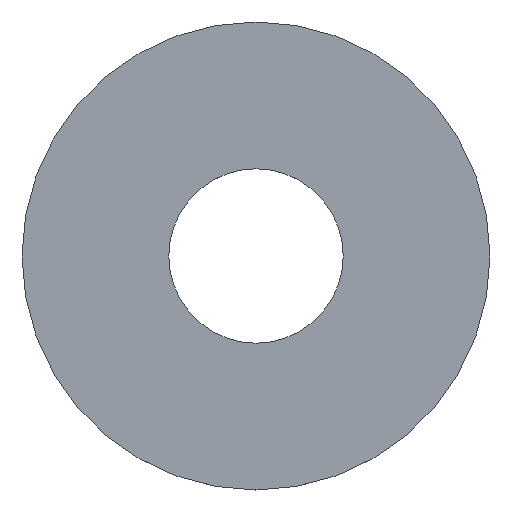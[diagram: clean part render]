
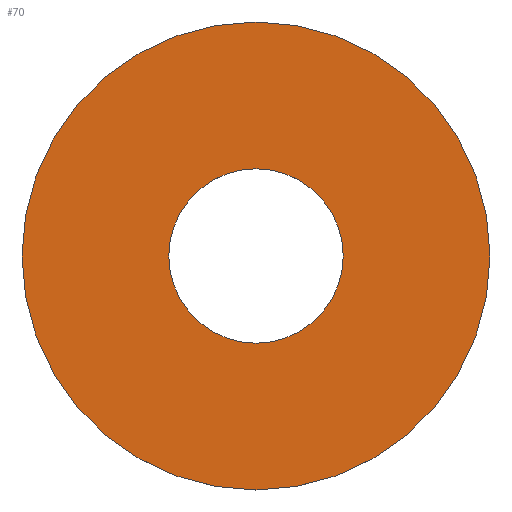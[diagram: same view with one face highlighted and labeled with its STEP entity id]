
A CAD part, top view. The second image highlights one B-rep face of the part: STEP entity #70.
In plain terms, the highlighted planar face has unit normal (0, 0, 1).
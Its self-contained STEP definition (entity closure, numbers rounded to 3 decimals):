
#24 = VERTEX_POINT('',#25);
#25 = CARTESIAN_POINT('',(41.5,61.3,13.55));
#31 = EDGE_CURVE('',#24,#24,#32,.T.);
#32 = CIRCLE('',#33,16.5);
#33 = AXIS2_PLACEMENT_3D('',#34,#35,#36);
#34 = CARTESIAN_POINT('',(25.,61.3,13.55));
#35 = DIRECTION('',(0.,0.,1.));
#36 = DIRECTION('',(1.,0.,0.));
#70 = ADVANCED_FACE('',(#71,#74),#85,.T.);
#71 = FACE_BOUND('',#72,.T.);
#72 = EDGE_LOOP('',(#73));
#73 = ORIENTED_EDGE('',*,*,#31,.T.);
#74 = FACE_BOUND('',#75,.T.);
#75 = EDGE_LOOP('',(#76));
#76 = ORIENTED_EDGE('',*,*,#77,.T.);
#77 = EDGE_CURVE('',#78,#78,#80,.T.);
#78 = VERTEX_POINT('',#79);
#79 = CARTESIAN_POINT('',(31.15,61.3,13.55));
#80 = CIRCLE('',#81,6.15);
#81 = AXIS2_PLACEMENT_3D('',#82,#83,#84);
#82 = CARTESIAN_POINT('',(25.,61.3,13.55));
#83 = DIRECTION('',(0.,0.,-1.));
#84 = DIRECTION('',(1.,0.,0.));
#85 = PLANE('',#86);
#86 = AXIS2_PLACEMENT_3D('',#87,#88,#89);
#87 = CARTESIAN_POINT('',(25.,61.3,13.55));
#88 = DIRECTION('',(0.,0.,1.));
#89 = DIRECTION('',(1.,0.,0.));
